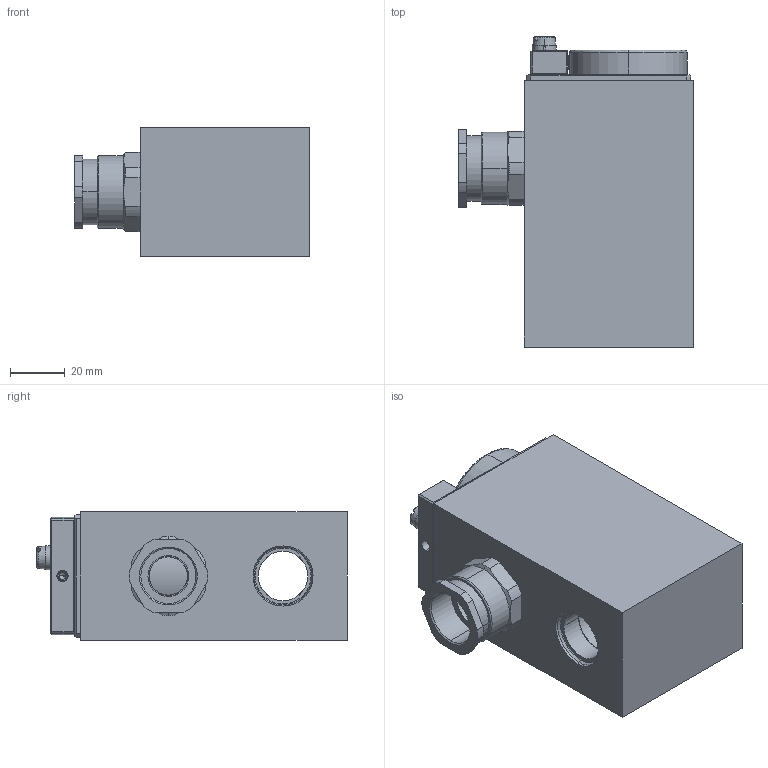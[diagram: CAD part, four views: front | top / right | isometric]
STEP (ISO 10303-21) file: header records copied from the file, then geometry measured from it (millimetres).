
FILE_DESCRIPTION (( 'STEP AP214' ), '1' );
FILE_NAME ('MKY45_18x60-K9_dev.STEP', '2020-07-03T11:54:33', ( '' ), ( '' ), 'SwSTEP 2.0', 'SolidWorks 2018', '' );
FILE_SCHEMA (( 'AUTOMOTIVE_DESIGN' ));
Length unit declared in the file: millimetre
Products named in the file (2): MKY45_18x60-K9_dev
Bounding box: 85.95 x 113.7 x 47 mm (x, y, z)
Volume: 292605.6 mm3; surface area: 45619.1 mm2
Topology: 1 solids, 14 shells, 423 faces, 1053 edges, 674 vertices
Faces by surface type: plane 218, cylinder 128, cone 51, bspline 16, torus 10
Entity records: 17874 total; most frequent: CARTESIAN_POINT 2971, DIRECTION 2197, ORIENTED_EDGE 2082, EDGE_CURVE 1041, AXIS2_PLACEMENT_3D 808, VERTEX_POINT 674, LINE 581, VECTOR 581
